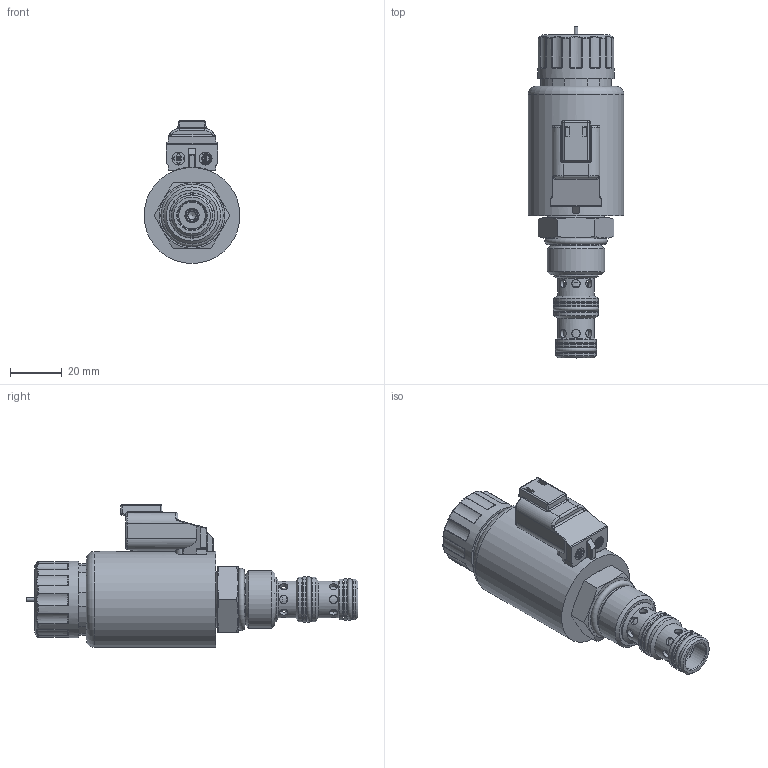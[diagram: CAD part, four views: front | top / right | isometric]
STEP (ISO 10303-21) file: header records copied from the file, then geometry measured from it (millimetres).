
FILE_DESCRIPTION(/* description */ (''),/* implementation_level */ '2;1');
FILE_NAME(/* name */ 'C:\Users\mcooper\OneDrive - Deltrol Corporation\Desktop\DFP_Docs\Deltrol\Catalog Pages - Proportional Valve Line\Website\DPFR2-100-3NO\DPFR2-100-3NO.stp',/* time_stamp */ '2026-01-29T08:31:48-05:00',/* author */ ('mcooper'),/* organization */ (''),/* preprocessor_version */ 'ST-DEVELOPER v18',/* originating_system */ 'Autodesk Inventor 2020',/* authorisation */ '');
FILE_SCHEMA (('AUTOMOTIVE_DESIGN { 1 0 10303 214 3 1 1 }'));
Length unit declared in the file: inch
Products named in the file (1): DPFR2-100-3NO Assembly1_Shrinkwrap_1
Bounding box: 37.1 x 128.32 x 55.25 mm (x, y, z)
Volume: 75536.3 mm3; surface area: 39785.1 mm2
Topology: 19 solids, 19 shells, 1020 faces, 2744 edges, 1838 vertices
Faces by surface type: plane 416, cylinder 349, torus 95, bspline 91, cone 60, sphere 9
Full cylindrical faces by diameter (mm): 0.135 x1, 0.166 x1, 0.445 x2, 1.524 x2, 1.57 x2, 2.007 x8, 2.286 x2, 2.54 x1, 2.915 x1, 3.048 x1, 3.175 x17, 3.581 x1, 3.81 x1, 4.318 x2, 4.331 x1, 4.369 x1, 4.724 x2, 4.775 x1, 4.826 x1, 5 x2, 5.08 x1, 5.436 x1, 5.537 x1, 5.702 x4, 6.337 x5, 6.347 x2, 6.35 x1, 7.366 x1, 7.772 x2, 8.28 x1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
Entity records: 41103 total; most frequent: CARTESIAN_POINT 14022, ORIENTED_EDGE 5482, DIRECTION 5418, EDGE_CURVE 2741, AXIS2_PLACEMENT_3D 2119, VERTEX_POINT 1838, EDGE_LOOP 1195, LINE 1180
